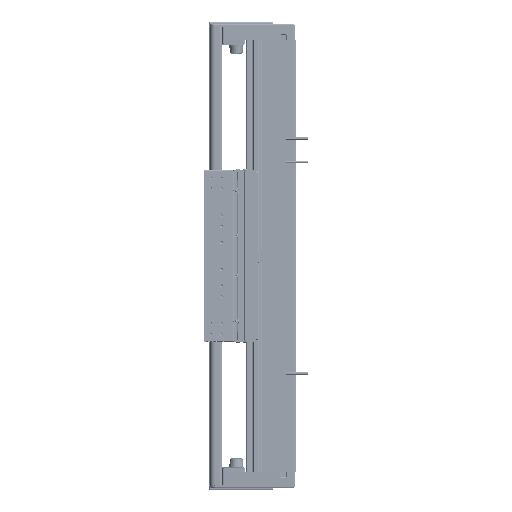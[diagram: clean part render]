
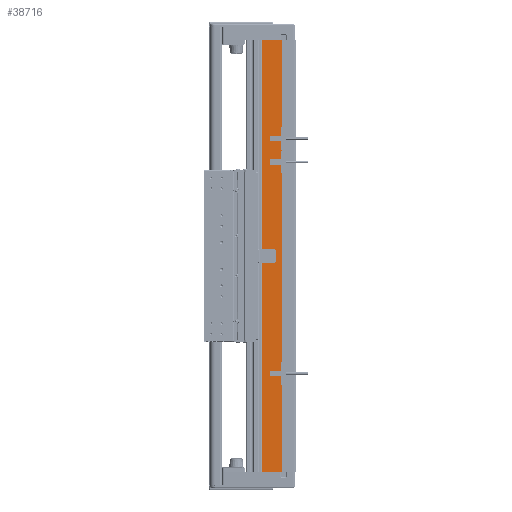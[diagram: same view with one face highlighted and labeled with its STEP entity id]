
A CAD part, left-side view. The second image highlights one B-rep face of the part: STEP entity #38716.
In plain terms, the highlighted planar face has unit normal (-1, 0, 0).
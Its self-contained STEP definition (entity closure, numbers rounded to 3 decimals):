
#1526 = LINE ( 'NONE', #65347, #5331 ) ;
#5331 = VECTOR ( 'NONE', #51665, 1000. ) ;
#13295 = CARTESIAN_POINT ( 'NONE',  ( -97.5, 14.45, 240. ) ) ;
#13336 = AXIS2_PLACEMENT_3D ( 'NONE', #40508, #100634, #16953 ) ;
#15203 = CARTESIAN_POINT ( 'NONE',  ( -97.5, 36.95, 240. ) ) ;
#16953 = DIRECTION ( 'NONE',  ( 0., 1., 0. ) ) ;
#22912 = VERTEX_POINT ( 'NONE', #27070 ) ;
#27070 = CARTESIAN_POINT ( 'NONE',  ( -97.5, 14.45, -240. ) ) ;
#27874 = CARTESIAN_POINT ( 'NONE',  ( -97.5, 36.95, -240. ) ) ;
#33616 = ORIENTED_EDGE ( 'NONE', *, *, #122771, .F. ) ;
#34945 = CARTESIAN_POINT ( 'NONE',  ( -97.5, 36.95, -240. ) ) ;
#37003 = VECTOR ( 'NONE', #124258, 1000. ) ;
#38044 = ORIENTED_EDGE ( 'NONE', *, *, #83962, .T. ) ;
#38716 = ADVANCED_FACE ( 'NONE', ( #51066 ), #46704, .F. ) ;
#40189 = LINE ( 'NONE', #129438, #73755 ) ;
#40508 = CARTESIAN_POINT ( 'NONE',  ( -97.5, 36.95, 240. ) ) ;
#45016 = ORIENTED_EDGE ( 'NONE', *, *, #119120, .F. ) ;
#46704 = PLANE ( 'NONE',  #13336 ) ;
#51066 = FACE_OUTER_BOUND ( 'NONE', #103663, .T. ) ;
#51665 = DIRECTION ( 'NONE',  ( 0., 0., -1. ) ) ;
#54605 = ORIENTED_EDGE ( 'NONE', *, *, #130204, .T. ) ;
#64765 = LINE ( 'NONE', #15203, #37003 ) ;
#65347 = CARTESIAN_POINT ( 'NONE',  ( -97.5, 14.45, 240. ) ) ;
#73755 = VECTOR ( 'NONE', #120165, 1000. ) ;
#75250 = DIRECTION ( 'NONE',  ( 0., -1., 0. ) ) ;
#81195 = VERTEX_POINT ( 'NONE', #13295 ) ;
#83962 = EDGE_CURVE ( 'NONE', #104793, #22912, #106929, .T. ) ;
#100634 = DIRECTION ( 'NONE',  ( 1., 0., 0. ) ) ;
#103663 = EDGE_LOOP ( 'NONE', ( #38044, #45016, #33616, #54605 ) ) ;
#104793 = VERTEX_POINT ( 'NONE', #27874 ) ;
#106929 = LINE ( 'NONE', #34945, #124270 ) ;
#112151 = VERTEX_POINT ( 'NONE', #113236 ) ;
#113236 = CARTESIAN_POINT ( 'NONE',  ( -97.5, 36.95, 240. ) ) ;
#119120 = EDGE_CURVE ( 'NONE', #81195, #22912, #1526, .T. ) ;
#120165 = DIRECTION ( 'NONE',  ( 0., 0., -1. ) ) ;
#122771 = EDGE_CURVE ( 'NONE', #112151, #81195, #64765, .T. ) ;
#124258 = DIRECTION ( 'NONE',  ( 0., -1., 0. ) ) ;
#124270 = VECTOR ( 'NONE', #75250, 1000. ) ;
#129438 = CARTESIAN_POINT ( 'NONE',  ( -97.5, 36.95, 240. ) ) ;
#130204 = EDGE_CURVE ( 'NONE', #112151, #104793, #40189, .T. ) ;
